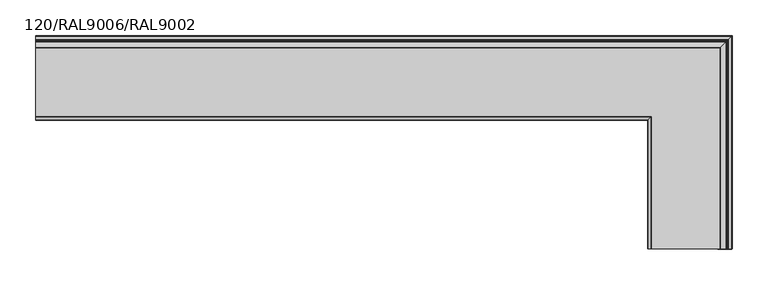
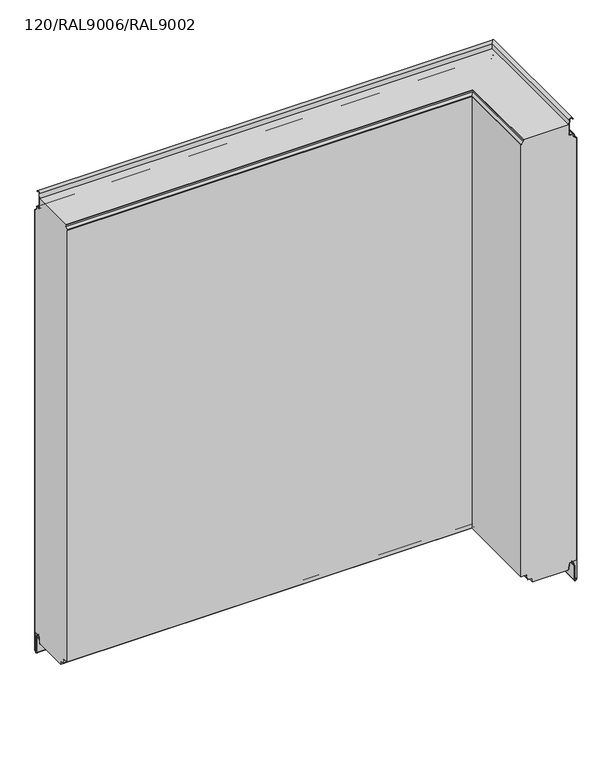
"""IFC4 building model written with IfcOpenShell, lengths in millimetres: plate geometry, TR_C_H_FHL_Corner_Tr_A : 120/RAL9006/RAL9002."""

from ifc_helpers import new_model, si_unit, frame, origin, place, context, project, spatial, polyline, circle_curve, ellipse_curve, source, transform, mapped, element, save
from ifc_brep_helpers import plane_surface, cylinder_surface, revolved_surface, advanced_brep


def plate_120_ral9006_ral9002_ec46e2fc(model_context):
    return source(origin(), model_context, "Body", "AdvancedBrep", [
        advanced_brep(
        [(472.5544237, -300.0, 1000.0), (376.8, -300.0, 1000.0), (376.8, -300.0, 998.1), (375.8334524, -300.0, 995.7665476), (371.4443651, -300.0, 991.3774603), (370.8, -300.0, 989.8218254), (370.8, -300.0, 19.9), (379.45, -300.0, 19.9), (383.635433, -300.0, 16.3880048), (384.9718183, -300.0, 8.808987), (386.0551068, -300.0, 7.9), (395.14, -300.0, 7.9), (395.14, -300.0, 0.0), (469.2, -300.0, 0.0), (470.2091721, -300.0, 0.1), (471.9027031, -300.0, 1.6518352), (472.7666165, -300.0, 11.5264116), (477.6479706, -300.0, 15.9993484), (489.2, -300.0, 15.9993484), (489.2, -300.0, 963.4370797), (488.6435029, -300.0, 964.7805826), (483.820101, -300.0, 969.6039845), (483.0, -300.0, 971.5838835), (483.0, -300.0, 974.4), (481.1, -300.0, 976.3), (475.2, -300.0, 976.3), (472.4, -300.0, 979.1), (472.4, -300.0, 998.2349288), (370.8, -119.2, 19.9), (370.8, -119.2, 989.8218254), (-490.0, -119.2, 989.8218254), (-490.0, -119.2, 19.9), (489.2, -0.8, 963.4370797), (489.2, -0.8, 15.9993484), (-490.0, -0.8, 15.9993484), (-490.0, -0.8, 963.4370797), (-490.0, -17.4455763, 1000.0), (-490.0, -17.6, 998.2349288), (-490.0, -17.6, 979.1), (-490.0, -14.8, 976.3), (-490.0, -8.9, 976.3), (-490.0, -7.0, 974.4), (-490.0, -7.0, 971.5838835), (-490.0, -6.179899, 969.6039845), (-490.0, -1.3564971, 964.7805826), (-490.0, -12.3520294, 15.9993484), (-490.0, -17.2333835, 11.5264116), (-490.0, -18.0972969, 1.6518352), (-490.0, -19.7908279, 0.1), (-490.0, -20.8, 0.0), (-490.0, -94.86, 0.0), (-490.0, -94.86, 7.9), (-490.0, -103.9448932, 7.9), (-490.0, -105.0281817, 8.808987), (-490.0, -106.364567, 16.3880048), (-490.0, -110.55, 19.9), (-490.0, -118.5556349, 991.3774603), (-490.0, -114.1665476, 995.7665476), (-490.0, -113.2, 998.1), (-490.0, -113.2, 1000.0), (472.5544237, -17.4455763, 1000.0), (376.8, -113.2, 1000.0), (395.14, -94.86, 0.0), (469.2, -20.8, 0.0), (376.8, -113.2, 998.1), (375.8334524, -114.1665476, 995.7665476), (371.4443651, -118.5556349, 991.3774603), (379.45, -110.55, 19.9), (383.635433, -106.364567, 16.3880048), (384.9718183, -105.0281817, 8.808987), (386.0551068, -103.9448932, 7.9), (395.14, -94.86, 7.9), (470.2091721, -19.7908279, 0.1), (471.9027031, -18.0972969, 1.6518352), (472.7666165, -17.2333835, 11.5264116), (477.6479706, -12.3520294, 15.9993484), (488.6435029, -1.3564971, 964.7805826), (483.820101, -6.179899, 969.6039845), (483.0, -7.0, 971.5838835), (483.0, -7.0, 974.4), (481.1, -8.9, 976.3), (475.2, -14.8, 976.3), (472.4, -17.6, 979.1), (472.4, -17.6, 998.2349288)],
        [
            (0, 1),
            (1, 2),
            (2, 3, circle_curve(frame((373.5, -300.0, 998.1), z_axis=(0.0, 1.0, 0.0), x_axis=(-1.0, 0.0, 0.0)), 3.3)),
            (3, 4),
            (4, 5, circle_curve(frame((373.0, -300.0, 989.8218254), z_axis=(0.0, -1.0, 0.0), x_axis=(-1.0, 0.0, 0.0)), 2.2)),
            (5, 6),
            (6, 7),
            (7, 8, circle_curve(frame((379.45, -300.0, 15.65), z_axis=(0.0, 1.0, 0.0), x_axis=(-1.0, 0.0, 0.0)), 4.25)),
            (8, 9),
            (9, 10, circle_curve(frame((386.0551068, -300.0, 9.0), z_axis=(0.0, -1.0, 0.0), x_axis=(-1.0, 0.0, 0.0)), 1.1)),
            (10, 11),
            (11, 12),
            (12, 13),
            (13, 14),
            (14, 15, circle_curve(frame((470.2091721, -300.0, 1.8), z_axis=(0.0, -1.0, 0.0), x_axis=(-1.0, 0.0, 0.0)), 1.7)),
            (15, 16),
            (16, 17, circle_curve(frame((477.6479706, -300.0, 11.0993484), z_axis=(0.0, 1.0, 0.0), x_axis=(-1.0, 0.0, 0.0)), 4.9)),
            (17, 18),
            (18, 19),
            (19, 20, circle_curve(frame((487.3, -300.0, 963.4370797), z_axis=(0.0, -1.0, 0.0), x_axis=(-1.0, 0.0, 0.0)), 1.9)),
            (20, 21),
            (21, 22, circle_curve(frame((485.8, -300.0, 971.5838835), z_axis=(0.0, 1.0, 0.0), x_axis=(-1.0, 0.0, 0.0)), 2.8)),
            (22, 23),
            (23, 24, circle_curve(frame((481.1, -300.0, 974.4), z_axis=(0.0, -1.0, 0.0), x_axis=(-1.0, 0.0, 0.0)), 1.9)),
            (24, 25),
            (25, 26, circle_curve(frame((475.2, -300.0, 979.1), z_axis=(0.0, 1.0, 0.0), x_axis=(-1.0, 0.0, 0.0)), 2.8)),
            (26, 27),
            (27, 0),
            (28, 29),
            (29, 30),
            (30, 31),
            (31, 28),
            (32, 33),
            (33, 34),
            (34, 35),
            (35, 32),
            (36, 37),
            (37, 38),
            (38, 39, circle_curve(frame((-490.0, -14.8, 979.1), z_axis=(1.0, 0.0, 0.0), x_axis=(0.0, -1.0, 0.0)), 2.8)),
            (39, 40),
            (40, 41, circle_curve(frame((-490.0, -8.9, 974.4), z_axis=(-1.0, 0.0, 0.0), x_axis=(0.0, -1.0, 0.0)), 1.9)),
            (41, 42),
            (42, 43, circle_curve(frame((-490.0, -4.2, 971.5838835), z_axis=(1.0, 0.0, 0.0), x_axis=(0.0, -1.0, 0.0)), 2.8)),
            (43, 44),
            (44, 35, circle_curve(frame((-490.0, -2.7, 963.4370797), z_axis=(-1.0, 0.0, 0.0), x_axis=(0.0, -1.0, 0.0)), 1.9)),
            (34, 45),
            (45, 46, circle_curve(frame((-490.0, -12.3520294, 11.0993484), z_axis=(1.0, 0.0, 0.0), x_axis=(0.0, -1.0, 0.0)), 4.9)),
            (46, 47),
            (47, 48, circle_curve(frame((-490.0, -19.7908279, 1.8), z_axis=(-1.0, 0.0, 0.0), x_axis=(0.0, -1.0, 0.0)), 1.7)),
            (48, 49),
            (49, 50),
            (50, 51),
            (51, 52),
            (52, 53, circle_curve(frame((-490.0, -103.9448932, 9.0), z_axis=(-1.0, 0.0, 0.0), x_axis=(0.0, -1.0, 0.0)), 1.1)),
            (53, 54),
            (54, 55, circle_curve(frame((-490.0, -110.55, 15.65), z_axis=(1.0, 0.0, 0.0), x_axis=(0.0, -1.0, 0.0)), 4.25)),
            (55, 31),
            (30, 56, circle_curve(frame((-490.0, -117.0, 989.8218254), z_axis=(-1.0, 0.0, 0.0), x_axis=(0.0, -1.0, 0.0)), 2.2)),
            (56, 57),
            (57, 58, circle_curve(frame((-490.0, -116.5, 998.1), z_axis=(1.0, 0.0, 0.0), x_axis=(0.0, -1.0, 0.0)), 3.3)),
            (58, 59),
            (59, 36),
            (0, 60),
            (60, 36),
            (59, 61),
            (61, 1),
            (5, 29),
            (28, 6),
            (12, 62),
            (62, 50),
            (49, 63),
            (63, 13),
            (18, 33),
            (32, 19),
            (61, 64),
            (64, 2),
            (64, 65, ellipse_curve(frame((373.5, -116.5, 998.1), z_axis=(-0.7071067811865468, 0.7071067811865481, 0.0), x_axis=(0.7071067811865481, 0.7071067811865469, 0.0)), 4.6669048, 3.3)),
            (65, 3),
            (65, 66),
            (66, 4),
            (66, 29, ellipse_curve(frame((373.0, -117.0, 989.8218254), z_axis=(0.7071067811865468, -0.7071067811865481, 0.0), x_axis=(-0.7071067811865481, -0.7071067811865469, 0.0)), 3.1112698, 2.2)),
            (55, 67),
            (67, 7),
            (67, 68, ellipse_curve(frame((379.45, -110.55, 15.65), z_axis=(-0.7071067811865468, 0.7071067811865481, 0.0), x_axis=(0.7071067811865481, 0.7071067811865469, 0.0)), 6.0104076, 4.25)),
            (68, 8),
            (68, 69),
            (69, 9),
            (69, 70, ellipse_curve(frame((386.0551068, -103.9448932, 9.0), z_axis=(0.7071067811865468, -0.7071067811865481, 0.0), x_axis=(-0.7071067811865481, -0.7071067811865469, 0.0)), 1.5556349, 1.1)),
            (70, 10),
            (70, 52),
            (51, 71),
            (71, 11),
            (71, 62),
            (63, 72),
            (72, 14),
            (72, 73, ellipse_curve(frame((470.2091721, -19.7908279, 1.8), z_axis=(0.7071067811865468, -0.7071067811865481, 0.0), x_axis=(-0.7071067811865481, -0.7071067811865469, 0.0)), 2.4041631, 1.7)),
            (73, 15),
            (73, 74),
            (74, 16),
            (74, 75, ellipse_curve(frame((477.6479706, -12.3520294, 11.0993484), z_axis=(-0.7071067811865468, 0.7071067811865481, 0.0), x_axis=(0.7071067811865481, 0.7071067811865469, 0.0)), 6.9296465, 4.9)),
            (75, 17),
            (75, 45),
            (32, 76, ellipse_curve(frame((487.3, -2.7, 963.4370797), z_axis=(0.7071067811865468, -0.7071067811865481, 0.0), x_axis=(-0.7071067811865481, -0.7071067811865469, 0.0)), 2.6870058, 1.9)),
            (76, 20),
            (76, 77),
            (77, 21),
            (77, 78, ellipse_curve(frame((485.8, -4.2, 971.5838835), z_axis=(-0.7071067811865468, 0.7071067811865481, 0.0), x_axis=(0.7071067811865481, 0.7071067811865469, 0.0)), 3.959798, 2.8)),
            (78, 22),
            (78, 79),
            (79, 23),
            (79, 80, ellipse_curve(frame((481.1, -8.9, 974.4), z_axis=(0.7071067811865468, -0.7071067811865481, 0.0), x_axis=(-0.7071067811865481, -0.7071067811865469, 0.0)), 2.6870058, 1.9)),
            (80, 24),
            (80, 40),
            (39, 81),
            (81, 25),
            (81, 82, ellipse_curve(frame((475.2, -14.8, 979.1), z_axis=(-0.7071067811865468, 0.7071067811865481, 0.0), x_axis=(0.7071067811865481, 0.7071067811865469, 0.0)), 3.959798, 2.8)),
            (82, 26),
            (82, 83),
            (83, 27),
            (83, 60),
            (58, 64),
            (57, 65),
            (56, 66),
            (54, 68),
            (53, 69),
            (48, 72),
            (47, 73),
            (46, 74),
            (44, 76),
            (43, 77),
            (42, 78),
            (41, 79),
            (38, 82),
            (37, 83),
        ],
        [
            plane_surface(frame((490.0, -300.0, 0.0), z_axis=(0.0, -1.0, 0.0), x_axis=(0.0, 0.0, 1.0))),
            plane_surface(frame((370.8, -119.2, 989.8218254), z_axis=(0.0, -1.0, 0.0), x_axis=(-1.0, 0.0, 0.0))),
            plane_surface(frame((489.2, -0.8, 15.9993484), z_axis=(0.0, 1.0, 0.0), x_axis=(-1.0, 0.0, 0.0))),
            plane_surface(frame((-490.0, 0.0, 0.0), z_axis=(-1.0, 0.0, 0.0), x_axis=(0.0, 0.0, 1.0))),
            plane_surface(frame((472.5544237, -300.0, 1000.0), z_axis=(0.0, 0.0, 1.0), x_axis=(0.0, 1.0, 0.0))),
            plane_surface(frame((370.8, -300.0, 989.8218254), z_axis=(-1.0, 0.0, 0.0), x_axis=(0.0, 1.0, 0.0))),
            plane_surface(frame((395.14, -300.0, 0.0), z_axis=(0.0, 0.0, -1.0), x_axis=(0.0, 1.0, 0.0))),
            plane_surface(frame((489.2, -300.0, 15.9993484), z_axis=(1.0, 0.0, 0.0), x_axis=(0.0, 1.0, 0.0))),
            plane_surface(frame((376.8, -300.0, 1000.0), z_axis=(-1.0, 0.0, 0.0), x_axis=(0.0, 1.0, 0.0))),
            revolved_surface(polyline([(370.2, -113.19999996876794, 998.1), (370.2, -300.0, 998.1)]), (373.5, -300.0, 998.1), (0.0, 1.0, 0.0)),
            plane_surface(frame((375.8334524, -300.0, 995.7665476), z_axis=(-0.7071067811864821, 0.0, 0.707106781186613), x_axis=(0.0, 1.0, 0.0))),
            cylinder_surface(frame((373.0, -300.0, 989.8218254), z_axis=(0.0, -1.0, 0.0), x_axis=(-1.0, 0.0, 0.0)), 2.2),
            plane_surface(frame((370.8, -300.0, 19.9), z_axis=(0.0, 0.0, -1.0), x_axis=(0.0, 1.0, 0.0))),
            revolved_surface(polyline([(375.2, -106.30000002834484, 15.65), (375.2, -300.0, 15.65)]), (379.45, -300.0, 15.65), (0.0, 1.0, 0.0)),
            plane_surface(frame((383.635433, -300.0, 16.3880048), z_axis=(-0.984807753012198, 0.0, -0.1736481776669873), x_axis=(0.0, 1.0, 0.0))),
            cylinder_surface(frame((386.0551068, -300.0, 9.0), z_axis=(0.0, -1.0, 0.0), x_axis=(-1.0, 0.0, 0.0)), 1.1),
            plane_surface(frame((386.0551068, -300.0, 7.9), z_axis=(0.0, 0.0, -1.0), x_axis=(0.0, 1.0, 0.0))),
            plane_surface(frame((395.14, -300.0, 7.9), z_axis=(-1.0, 0.0, 0.0), x_axis=(0.0, 1.0, 0.0))),
            plane_surface(frame((469.2, -300.0, 0.0), z_axis=(0.09860819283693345, 0.0, -0.9951263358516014), x_axis=(0.0, 1.0, 0.0))),
            cylinder_surface(frame((470.2091721, -300.0, 1.8), z_axis=(0.0, -1.0, 0.0), x_axis=(-1.0, 0.0, 0.0)), 1.7),
            plane_surface(frame((471.9027031, -300.0, 1.6518352), z_axis=(0.996194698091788, 0.0, -0.08715574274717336), x_axis=(0.0, 1.0, 0.0))),
            revolved_surface(polyline([(472.74797060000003, -7.45202936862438, 11.0993484), (472.74797060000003, -300.0, 11.0993484)]), (477.6479706, -300.0, 11.0993484), (0.0, 1.0, 0.0)),
            plane_surface(frame((477.6479706, -300.0, 15.9993484), z_axis=(0.0, 0.0, -1.0), x_axis=(0.0, 1.0, 0.0))),
            cylinder_surface(frame((487.3, -300.0, 963.4370797), z_axis=(0.0, -1.0, 0.0), x_axis=(-1.0, 0.0, 0.0)), 1.9),
            plane_surface(frame((488.6435029, -300.0, 964.7805826), z_axis=(0.7071067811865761, 0.0, 0.707106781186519), x_axis=(0.0, 1.0, 0.0))),
            revolved_surface(polyline([(483.0, -1.3999999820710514, 971.5838835), (483.0, -300.0, 971.5838835)]), (485.8, -300.0, 971.5838835), (0.0, 1.0, 0.0)),
            plane_surface(frame((483.0, -300.0, 971.5838835), z_axis=(1.0, 0.0, 0.0), x_axis=(0.0, 1.0, 0.0))),
            cylinder_surface(frame((481.1, -300.0, 974.4), z_axis=(0.0, -1.0, 0.0), x_axis=(-1.0, 0.0, 0.0)), 1.9),
            plane_surface(frame((481.1, -300.0, 976.3), z_axis=(0.0, 0.0, 1.0), x_axis=(0.0, 1.0, 0.0))),
            revolved_surface(polyline([(472.4, -11.999999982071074, 979.1), (472.4, -300.0, 979.1)]), (475.2, -300.0, 979.1), (0.0, 1.0, 0.0)),
            plane_surface(frame((472.4, -300.0, 979.1), z_axis=(1.0, 0.0, 0.0), x_axis=(0.0, 1.0, 0.0))),
            plane_surface(frame((472.4, -300.0, 998.2349288), z_axis=(0.9961946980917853, 0.0, -0.08715574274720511), x_axis=(0.0, 1.0, 0.0))),
            plane_surface(frame((376.8, -113.2, 1000.0), z_axis=(0.0, -1.0, 0.0), x_axis=(-1.0, 0.0, 0.0))),
            revolved_surface(polyline([(-490.0, -119.8, 998.1), (376.80000003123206, -119.8, 998.1)]), (490.0, -116.5, 998.1), (-1.0, 0.0, 0.0)),
            plane_surface(frame((375.8334524, -114.1665476, 995.7665476), z_axis=(0.0, -0.7071067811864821, 0.707106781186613), x_axis=(-1.0, 0.0, 0.0))),
            cylinder_surface(frame((490.0, -117.0, 989.8218254), z_axis=(1.0, 0.0, 0.0), x_axis=(0.0, -1.0, 0.0)), 2.2),
            revolved_surface(polyline([(-490.0, -114.8, 15.65), (383.6999999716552, -114.8, 15.65)]), (490.0, -110.55, 15.65), (-1.0, 0.0, 0.0)),
            plane_surface(frame((383.635433, -106.364567, 16.3880048), z_axis=(0.0, -0.984807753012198, -0.1736481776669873), x_axis=(-1.0, 0.0, 0.0))),
            cylinder_surface(frame((490.0, -103.9448932, 9.0), z_axis=(1.0, 0.0, 0.0), x_axis=(0.0, -1.0, 0.0)), 1.1),
            plane_surface(frame((395.14, -94.86, 7.9), z_axis=(0.0, -1.0, 0.0), x_axis=(-1.0, 0.0, 0.0))),
            plane_surface(frame((469.2, -20.8, 0.0), z_axis=(0.0, 0.09860819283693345, -0.9951263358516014), x_axis=(-1.0, 0.0, 0.0))),
            cylinder_surface(frame((490.0, -19.7908279, 1.8), z_axis=(1.0, 0.0, 0.0), x_axis=(0.0, -1.0, 0.0)), 1.7),
            plane_surface(frame((471.9027031, -18.0972969, 1.6518352), z_axis=(0.0, 0.996194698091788, -0.08715574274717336), x_axis=(-1.0, 0.0, 0.0))),
            revolved_surface(polyline([(-490.0, -17.252029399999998, 11.0993484), (482.5479706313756, -17.252029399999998, 11.0993484)]), (490.0, -12.3520294, 11.0993484), (-1.0, 0.0, 0.0)),
            cylinder_surface(frame((490.0, -2.7, 963.4370797), z_axis=(1.0, 0.0, 0.0), x_axis=(0.0, -1.0, 0.0)), 1.9),
            plane_surface(frame((488.6435029, -1.3564971, 964.7805826), z_axis=(0.0, 0.7071067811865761, 0.707106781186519), x_axis=(-1.0, 0.0, 0.0))),
            revolved_surface(polyline([(-490.0, -7.0, 971.5838835), (488.60000001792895, -7.0, 971.5838835)]), (490.0, -4.2, 971.5838835), (-1.0, 0.0, 0.0)),
            plane_surface(frame((483.0, -7.0, 971.5838835), z_axis=(0.0, 1.0, 0.0), x_axis=(-1.0, 0.0, 0.0))),
            cylinder_surface(frame((490.0, -8.9, 974.4), z_axis=(1.0, 0.0, 0.0), x_axis=(0.0, -1.0, 0.0)), 1.9),
            revolved_surface(polyline([(-490.0, -17.6, 979.1), (478.0000000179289, -17.6, 979.1)]), (490.0, -14.8, 979.1), (-1.0, 0.0, 0.0)),
            plane_surface(frame((472.4, -17.6, 979.1), z_axis=(0.0, 1.0, 0.0), x_axis=(-1.0, 0.0, 0.0))),
            plane_surface(frame((472.4, -17.6, 998.2349288), z_axis=(0.0, 0.9961946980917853, -0.08715574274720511), x_axis=(-1.0, 0.0, 0.0))),
        ],
        [
            (0, [[1, 2, 3, 4, 5, 6, 7, 8, 9, 10, 11, 12, 13, 14, 15, 16, 17, 18, 19, 20, 21, 22, 23, 24, 25, 26, 27, 28]]),
            (1, [[29, 30, 31, 32]]),
            (2, [[33, 34, 35, 36]]),
            (3, [[37, 38, 39, 40, 41, 42, 43, 44, 45, -35, 46, 47, 48, 49, 50, 51, 52, 53, 54, 55, 56, 57, -31, 58, 59, 60, 61, 62]]),
            (4, [[-1, 63, 64, -62, 65, 66]]),
            (5, [[-6, 67, -29, 68]]),
            (6, [[-13, 69, 70, -51, 71, 72]]),
            (7, [[-19, 73, -33, 74]]),
            (8, [[-2, -66, 75, 76]]),
            (9, [[-3, -76, 77, 78]]),
            (10, [[-4, -78, 79, 80]]),
            (11, [[-5, -80, 81, -67]]),
            (12, [[-7, -68, -32, -57, 82, 83]]),
            (13, [[-8, -83, 84, 85]]),
            (14, [[-9, -85, 86, 87]]),
            (15, [[-10, -87, 88, 89]]),
            (16, [[-11, -89, 90, -53, 91, 92]]),
            (17, [[-12, -92, 93, -69]]),
            (18, [[-14, -72, 94, 95]]),
            (19, [[-15, -95, 96, 97]]),
            (20, [[-16, -97, 98, 99]]),
            (21, [[-17, -99, 100, 101]]),
            (22, [[-18, -101, 102, -46, -34, -73]]),
            (23, [[-20, -74, 103, 104]]),
            (24, [[-21, -104, 105, 106]]),
            (25, [[-22, -106, 107, 108]]),
            (26, [[-23, -108, 109, 110]]),
            (27, [[-24, -110, 111, 112]]),
            (28, [[-25, -112, 113, -40, 114, 115]]),
            (29, [[-26, -115, 116, 117]]),
            (30, [[-27, -117, 118, 119]]),
            (31, [[-28, -119, 120, -63]]),
            (32, [[-75, -65, -61, 121]]),
            (33, [[-77, -121, -60, 122]]),
            (34, [[-79, -122, -59, 123]]),
            (35, [[-81, -123, -58, -30]]),
            (36, [[-84, -82, -56, 124]]),
            (37, [[-86, -124, -55, 125]]),
            (38, [[-88, -125, -54, -90]]),
            (39, [[-93, -91, -52, -70]]),
            (40, [[-94, -71, -50, 126]]),
            (41, [[-96, -126, -49, 127]]),
            (42, [[-98, -127, -48, 128]]),
            (43, [[-100, -128, -47, -102]]),
            (44, [[-103, -36, -45, 129]]),
            (45, [[-105, -129, -44, 130]]),
            (46, [[-107, -130, -43, 131]]),
            (47, [[-109, -131, -42, 132]]),
            (48, [[-111, -132, -41, -113]]),
            (49, [[-116, -114, -39, 133]]),
            (50, [[-118, -133, -38, 134]]),
            (51, [[-120, -134, -37, -64]]),
        ],
    ),
        advanced_brep(
        [(490.0, -300.0, 963.4370797), (489.2091883, -300.0, 965.346268), (484.3857864, -300.0, 970.1696699), (483.8, -300.0, 971.5838835), (483.8, -300.0, 974.4), (481.1, -300.0, 977.1), (475.2, -300.0, 977.1), (473.2, -300.0, 979.1), (473.2, -300.0, 998.2), (474.2917621, -300.0, 1010.6788984), (480.5052446, -300.0, 1011.4418181), (480.8148588, -300.0, 1010.5426332), (481.5712737, -300.0, 1010.8030877), (481.2616595, -300.0, 1011.7022726), (473.4948064, -300.0, 1010.748623), (472.4, -300.0, 998.2349288), (472.4, -300.0, 979.1), (475.2, -300.0, 976.3), (481.1, -300.0, 976.3), (483.0, -300.0, 974.4), (483.0, -300.0, 971.5838835), (483.820101, -300.0, 969.6039845), (488.6435029, -300.0, 964.7805826), (489.2, -300.0, 963.4370797), (489.2, -300.0, -25.1006169), (488.5957969, -300.0, -26.4901889), (486.6501982, -300.0, -28.3044891), (484.8, -300.0, -27.5), (484.8, -300.0, 4.8267282), (484.6202113, -300.0, 5.9011031), (482.2810116, -300.0, 12.6946324), (472.7666165, -300.0, 11.5264116), (471.9027031, -300.0, 1.6518352), (470.2091721, -300.0, 0.1), (469.2, -300.0, 0.1), (469.2, -300.0, -0.7), (470.2091721, -300.0, -0.7), (472.6996588, -300.0, 1.5821106), (473.5635723, -300.0, 11.456687), (481.5245967, -300.0, 12.4341779), (483.8637964, -300.0, 5.6406486), (484.0, -300.0, 4.8267282), (484.0, -300.0, -27.5), (487.1957969, -300.0, -28.889572), (489.1413956, -300.0, -27.0752719), (490.0, -300.0, -25.1006169), (489.2, -0.8, -25.1006169), (489.2, -0.8, 963.4370797), (-490.0, -0.8, 963.4370797), (-490.0, -0.8, -25.1006169), (490.0, 0.0, 963.4370797), (490.0, 0.0, -25.1006169), (-490.0, 0.0, -25.1006169), (-490.0, 0.0, 963.4370797), (-490.0, -0.8586044, -27.0752719), (-490.0, -2.8042031, -28.889572), (-490.0, -6.0, -27.5), (-490.0, -6.0, 4.8267282), (-490.0, -6.1362036, 5.6406486), (-490.0, -8.4754033, 12.4341779), (-490.0, -16.4364277, 11.456687), (-490.0, -17.3003412, 1.5821106), (-490.0, -19.7908279, -0.7), (-490.0, -20.8, -0.7), (-490.0, -20.8, 0.1), (-490.0, -19.7908279, 0.1), (-490.0, -18.0972969, 1.6518352), (-490.0, -17.2333835, 11.5264116), (-490.0, -7.7189884, 12.6946324), (-490.0, -5.3797887, 5.9011031), (-490.0, -5.2, 4.8267282), (-490.0, -5.2, -27.5), (-490.0, -3.3498018, -28.3044891), (-490.0, -1.4042031, -26.4901889), (-490.0, -1.3564971, 964.7805826), (-490.0, -6.179899, 969.6039845), (-490.0, -7.0, 971.5838835), (-490.0, -7.0, 974.4), (-490.0, -8.9, 976.3), (-490.0, -14.8, 976.3), (-490.0, -17.6, 979.1), (-490.0, -17.6, 998.2349288), (-490.0, -16.5051936, 1010.748623), (-490.0, -8.7383405, 1011.7022726), (-490.0, -8.4287263, 1010.8030877), (-490.0, -9.1851412, 1010.5426332), (-490.0, -9.4947554, 1011.4418181), (-490.0, -15.7082379, 1010.6788984), (-490.0, -16.8, 998.2), (-490.0, -16.8, 979.1), (-490.0, -14.8, 977.1), (-490.0, -8.9, 977.1), (-490.0, -6.2, 974.4), (-490.0, -6.2, 971.5838835), (-490.0, -5.6142136, 970.1696699), (-490.0, -0.7908117, 965.346268), (489.2091883, -0.7908117, 965.346268), (484.3857864, -5.6142136, 970.1696699), (483.8, -6.2, 971.5838835), (483.8, -6.2, 974.4), (481.1, -8.9, 977.1), (475.2, -14.8, 977.1), (473.2, -16.8, 979.1), (473.2, -16.8, 998.2), (474.2917621, -15.7082379, 1010.6788984), (480.5052446, -9.4947554, 1011.4418181), (480.8148588, -9.1851412, 1010.5426332), (481.5712737, -8.4287263, 1010.8030877), (481.2616595, -8.7383405, 1011.7022726), (473.4948064, -16.5051936, 1010.748623), (472.4, -17.6, 998.2349288), (472.4, -17.6, 979.1), (475.2, -14.8, 976.3), (481.1, -8.9, 976.3), (483.0, -7.0, 974.4), (483.0, -7.0, 971.5838835), (483.820101, -6.179899, 969.6039845), (488.6435029, -1.3564971, 964.7805826), (488.5957969, -1.4042031, -26.4901889), (486.6501982, -3.3498018, -28.3044891), (484.8, -5.2, -27.5), (484.8, -5.2, 4.8267282), (484.6202113, -5.3797887, 5.9011031), (482.2810116, -7.7189884, 12.6946324), (472.7666165, -17.2333835, 11.5264116), (471.9027031, -18.0972969, 1.6518352), (470.2091721, -19.7908279, 0.1), (469.2, -20.8, 0.1), (469.2, -20.8, -0.7), (470.2091721, -19.7908279, -0.7), (472.6996588, -17.3003412, 1.5821106), (473.5635723, -16.4364277, 11.456687), (481.5245967, -8.4754033, 12.4341779), (483.8637964, -6.1362036, 5.6406486), (484.0, -6.0, 4.8267282), (484.0, -6.0, -27.5), (487.1957969, -2.8042031, -28.889572), (489.1413956, -0.8586044, -27.0752719)],
        [
            (0, 1, circle_curve(frame((487.3, -300.0, 963.4370797), z_axis=(0.0, -1.0, 0.0), x_axis=(-1.0, 0.0, 0.0)), 2.7)),
            (1, 2),
            (2, 3, circle_curve(frame((485.8, -300.0, 971.5838835), z_axis=(0.0, 1.0, 0.0), x_axis=(-1.0, 0.0, 0.0)), 2.0)),
            (3, 4),
            (4, 5, circle_curve(frame((481.1, -300.0, 974.4), z_axis=(0.0, -1.0, 0.0), x_axis=(-1.0, 0.0, 0.0)), 2.7)),
            (5, 6),
            (6, 7, circle_curve(frame((475.2, -300.0, 979.1), z_axis=(0.0, 1.0, 0.0), x_axis=(-1.0, 0.0, 0.0)), 2.0)),
            (7, 8),
            (8, 9),
            (9, 10, circle_curve(frame((477.4795852, -300.0, 1010.4), z_axis=(0.0, 1.0, 0.0), x_axis=(-1.0, 0.0, 0.0)), 3.2)),
            (10, 11),
            (11, 12),
            (12, 13),
            (13, 14, circle_curve(frame((477.4795852, -300.0, 1010.4), z_axis=(0.0, -1.0, 0.0), x_axis=(-1.0, 0.0, 0.0)), 4.0)),
            (14, 15),
            (15, 16),
            (16, 17, circle_curve(frame((475.2, -300.0, 979.1), z_axis=(0.0, -1.0, 0.0), x_axis=(-1.0, 0.0, 0.0)), 2.8)),
            (17, 18),
            (18, 19, circle_curve(frame((481.1, -300.0, 974.4), z_axis=(0.0, 1.0, 0.0), x_axis=(-1.0, 0.0, 0.0)), 1.9)),
            (19, 20),
            (20, 21, circle_curve(frame((485.8, -300.0, 971.5838835), z_axis=(0.0, -1.0, 0.0), x_axis=(-1.0, 0.0, 0.0)), 2.8)),
            (21, 22),
            (22, 23, circle_curve(frame((487.3, -300.0, 963.4370797), z_axis=(0.0, 1.0, 0.0), x_axis=(-1.0, 0.0, 0.0)), 1.9)),
            (23, 24),
            (24, 25, circle_curve(frame((487.3, -300.0, -25.1006169), z_axis=(0.0, 1.0, 0.0), x_axis=(-1.0, 0.0, 0.0)), 1.9)),
            (25, 26),
            (26, 27, circle_curve(frame((485.9, -300.0, -27.5), z_axis=(0.0, 1.0, 0.0), x_axis=(-1.0, 0.0, 0.0)), 1.1)),
            (27, 28),
            (28, 29, circle_curve(frame((481.5, -300.0, 4.8267282), z_axis=(0.0, -1.0, 0.0), x_axis=(-1.0, 0.0, 0.0)), 3.3)),
            (29, 30),
            (30, 31, circle_curve(frame((477.6479706, -300.0, 11.0993484), z_axis=(0.0, -1.0, 0.0), x_axis=(-1.0, 0.0, 0.0)), 4.9)),
            (31, 32),
            (32, 33, circle_curve(frame((470.2091721, -300.0, 1.8), z_axis=(0.0, 1.0, 0.0), x_axis=(-1.0, 0.0, 0.0)), 1.7)),
            (33, 34),
            (34, 35),
            (35, 36),
            (36, 37, circle_curve(frame((470.2091721, -300.0, 1.8), z_axis=(0.0, -1.0, 0.0), x_axis=(-1.0, 0.0, 0.0)), 2.5)),
            (37, 38),
            (38, 39, circle_curve(frame((477.6479706, -300.0, 11.0993484), z_axis=(0.0, 1.0, 0.0), x_axis=(-1.0, 0.0, 0.0)), 4.1)),
            (39, 40),
            (40, 41, circle_curve(frame((481.5, -300.0, 4.8267282), z_axis=(0.0, 1.0, 0.0), x_axis=(-1.0, 0.0, 0.0)), 2.5)),
            (41, 42),
            (42, 43, circle_curve(frame((485.9, -300.0, -27.5), z_axis=(0.0, -1.0, 0.0), x_axis=(-1.0, 0.0, 0.0)), 1.9)),
            (43, 44),
            (44, 45, circle_curve(frame((487.3, -300.0, -25.1006169), z_axis=(0.0, -1.0, 0.0), x_axis=(-1.0, 0.0, 0.0)), 2.7)),
            (45, 0),
            (46, 47),
            (47, 48),
            (48, 49),
            (49, 46),
            (50, 51),
            (51, 52),
            (52, 53),
            (53, 50),
            (52, 54, circle_curve(frame((-490.0, -2.7, -25.1006169), z_axis=(-1.0, 0.0, 0.0), x_axis=(0.0, -1.0, 0.0)), 2.7)),
            (54, 55),
            (55, 56, circle_curve(frame((-490.0, -4.1, -27.5), z_axis=(-1.0, 0.0, 0.0), x_axis=(0.0, -1.0, 0.0)), 1.9)),
            (56, 57),
            (57, 58, circle_curve(frame((-490.0, -8.5, 4.8267282), z_axis=(1.0, 0.0, 0.0), x_axis=(0.0, -1.0, 0.0)), 2.5)),
            (58, 59),
            (59, 60, circle_curve(frame((-490.0, -12.3520294, 11.0993484), z_axis=(1.0, 0.0, 0.0), x_axis=(0.0, -1.0, 0.0)), 4.1)),
            (60, 61),
            (61, 62, circle_curve(frame((-490.0, -19.7908279, 1.8), z_axis=(-1.0, 0.0, 0.0), x_axis=(0.0, -1.0, 0.0)), 2.5)),
            (62, 63),
            (63, 64),
            (64, 65),
            (65, 66, circle_curve(frame((-490.0, -19.7908279, 1.8), z_axis=(1.0, 0.0, 0.0), x_axis=(0.0, -1.0, 0.0)), 1.7)),
            (66, 67),
            (67, 68, circle_curve(frame((-490.0, -12.3520294, 11.0993484), z_axis=(-1.0, 0.0, 0.0), x_axis=(0.0, -1.0, 0.0)), 4.9)),
            (68, 69),
            (69, 70, circle_curve(frame((-490.0, -8.5, 4.8267282), z_axis=(-1.0, 0.0, 0.0), x_axis=(0.0, -1.0, 0.0)), 3.3)),
            (70, 71),
            (71, 72, circle_curve(frame((-490.0, -4.1, -27.5), z_axis=(1.0, 0.0, 0.0), x_axis=(0.0, -1.0, 0.0)), 1.1)),
            (72, 73),
            (73, 49, circle_curve(frame((-490.0, -2.7, -25.1006169), z_axis=(1.0, 0.0, 0.0), x_axis=(0.0, -1.0, 0.0)), 1.9)),
            (48, 74, circle_curve(frame((-490.0, -2.7, 963.4370797), z_axis=(1.0, 0.0, 0.0), x_axis=(0.0, -1.0, 0.0)), 1.9)),
            (74, 75),
            (75, 76, circle_curve(frame((-490.0, -4.2, 971.5838835), z_axis=(-1.0, 0.0, 0.0), x_axis=(0.0, -1.0, 0.0)), 2.8)),
            (76, 77),
            (77, 78, circle_curve(frame((-490.0, -8.9, 974.4), z_axis=(1.0, 0.0, 0.0), x_axis=(0.0, -1.0, 0.0)), 1.9)),
            (78, 79),
            (79, 80, circle_curve(frame((-490.0, -14.8, 979.1), z_axis=(-1.0, 0.0, 0.0), x_axis=(0.0, -1.0, 0.0)), 2.8)),
            (80, 81),
            (81, 82),
            (82, 83, circle_curve(frame((-490.0, -12.5204148, 1010.4), z_axis=(-1.0, 0.0, 0.0), x_axis=(0.0, -1.0, 0.0)), 4.0)),
            (83, 84),
            (84, 85),
            (85, 86),
            (86, 87, circle_curve(frame((-490.0, -12.5204148, 1010.4), z_axis=(1.0, 0.0, 0.0), x_axis=(0.0, -1.0, 0.0)), 3.2)),
            (87, 88),
            (88, 89),
            (89, 90, circle_curve(frame((-490.0, -14.8, 979.1), z_axis=(1.0, 0.0, 0.0), x_axis=(0.0, -1.0, 0.0)), 2.0)),
            (90, 91),
            (91, 92, circle_curve(frame((-490.0, -8.9, 974.4), z_axis=(-1.0, 0.0, 0.0), x_axis=(0.0, -1.0, 0.0)), 2.7)),
            (92, 93),
            (93, 94, circle_curve(frame((-490.0, -4.2, 971.5838835), z_axis=(1.0, 0.0, 0.0), x_axis=(0.0, -1.0, 0.0)), 2.0)),
            (94, 95),
            (95, 53, circle_curve(frame((-490.0, -2.7, 963.4370797), z_axis=(-1.0, 0.0, 0.0), x_axis=(0.0, -1.0, 0.0)), 2.7)),
            (23, 47),
            (46, 24),
            (45, 51),
            (50, 0),
            (50, 96, ellipse_curve(frame((487.3, -2.7, 963.4370797), z_axis=(0.7071067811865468, -0.7071067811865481, 0.0), x_axis=(-0.7071067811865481, -0.7071067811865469, 0.0)), 3.8183766, 2.7)),
            (96, 1),
            (96, 97),
            (97, 2),
            (97, 98, ellipse_curve(frame((485.8, -4.2, 971.5838835), z_axis=(-0.7071067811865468, 0.7071067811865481, 0.0), x_axis=(0.7071067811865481, 0.7071067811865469, 0.0)), 2.8284271, 2.0)),
            (98, 3),
            (98, 99),
            (99, 4),
            (99, 100, ellipse_curve(frame((481.1, -8.9, 974.4), z_axis=(0.7071067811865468, -0.7071067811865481, 0.0), x_axis=(-0.7071067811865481, -0.7071067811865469, 0.0)), 3.8183766, 2.7)),
            (100, 5),
            (100, 91),
            (90, 101),
            (101, 6),
            (101, 102, ellipse_curve(frame((475.2, -14.8, 979.1), z_axis=(-0.7071067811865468, 0.7071067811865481, 0.0), x_axis=(0.7071067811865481, 0.7071067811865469, 0.0)), 2.8284271, 2.0)),
            (102, 7),
            (102, 103),
            (103, 8),
            (103, 104),
            (104, 9),
            (104, 105, ellipse_curve(frame((477.4795852, -12.5204148, 1010.4), z_axis=(-0.7071067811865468, 0.7071067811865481, 0.0), x_axis=(0.7071067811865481, 0.7071067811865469, 0.0)), 4.5254834, 3.2)),
            (105, 10),
            (105, 106),
            (106, 11),
            (106, 107),
            (107, 12),
            (107, 108),
            (108, 13),
            (108, 109, ellipse_curve(frame((477.4795852, -12.5204148, 1010.4), z_axis=(0.7071067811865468, -0.7071067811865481, 0.0), x_axis=(-0.7071067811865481, -0.7071067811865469, 0.0)), 5.6568542, 4.0)),
            (109, 14),
            (109, 110),
            (110, 15),
            (110, 111),
            (111, 16),
            (111, 112, ellipse_curve(frame((475.2, -14.8, 979.1), z_axis=(0.7071067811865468, -0.7071067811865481, 0.0), x_axis=(-0.7071067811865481, -0.7071067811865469, 0.0)), 3.959798, 2.8)),
            (112, 17),
            (112, 79),
            (78, 113),
            (113, 18),
            (113, 114, ellipse_curve(frame((481.1, -8.9, 974.4), z_axis=(-0.7071067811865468, 0.7071067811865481, 0.0), x_axis=(0.7071067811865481, 0.7071067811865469, 0.0)), 2.6870058, 1.9)),
            (114, 19),
            (114, 115),
            (115, 20),
            (115, 116, ellipse_curve(frame((485.8, -4.2, 971.5838835), z_axis=(0.7071067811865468, -0.7071067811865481, 0.0), x_axis=(-0.7071067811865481, -0.7071067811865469, 0.0)), 3.959798, 2.8)),
            (116, 21),
            (116, 117),
            (117, 22),
            (117, 47, ellipse_curve(frame((487.3, -2.7, 963.4370797), z_axis=(-0.7071067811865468, 0.7071067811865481, 0.0), x_axis=(0.7071067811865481, 0.7071067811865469, 0.0)), 2.6870058, 1.9)),
            (46, 118, ellipse_curve(frame((487.3, -2.7, -25.1006169), z_axis=(-0.7071067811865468, 0.7071067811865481, 0.0), x_axis=(0.7071067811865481, 0.7071067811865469, 0.0)), 2.6870058, 1.9)),
            (118, 25),
            (118, 119),
            (119, 26),
            (119, 120, ellipse_curve(frame((485.9, -4.1, -27.5), z_axis=(-0.7071067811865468, 0.7071067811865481, 0.0), x_axis=(0.7071067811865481, 0.7071067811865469, 0.0)), 1.5556349, 1.1)),
            (120, 27),
            (120, 121),
            (121, 28),
            (121, 122, ellipse_curve(frame((481.5, -8.5, 4.8267282), z_axis=(0.7071067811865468, -0.7071067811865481, 0.0), x_axis=(-0.7071067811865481, -0.7071067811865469, 0.0)), 4.6669048, 3.3)),
            (122, 29),
            (122, 123),
            (123, 30),
            (123, 124, ellipse_curve(frame((477.6479706, -12.3520294, 11.0993484), z_axis=(0.7071067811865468, -0.7071067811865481, 0.0), x_axis=(-0.7071067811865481, -0.7071067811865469, 0.0)), 6.9296465, 4.9)),
            (124, 31),
            (124, 125),
            (125, 32),
            (125, 126, ellipse_curve(frame((470.2091721, -19.7908279, 1.8), z_axis=(-0.7071067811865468, 0.7071067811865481, 0.0), x_axis=(0.7071067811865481, 0.7071067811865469, 0.0)), 2.4041631, 1.7)),
            (126, 33),
            (126, 65),
            (64, 127),
            (127, 34),
            (127, 128),
            (128, 35),
            (128, 63),
            (62, 129),
            (129, 36),
            (129, 130, ellipse_curve(frame((470.2091721, -19.7908279, 1.8), z_axis=(0.7071067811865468, -0.7071067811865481, 0.0), x_axis=(-0.7071067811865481, -0.7071067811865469, 0.0)), 3.5355339, 2.5)),
            (130, 37),
            (130, 131),
            (131, 38),
            (131, 132, ellipse_curve(frame((477.6479706, -12.3520294, 11.0993484), z_axis=(-0.7071067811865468, 0.7071067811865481, 0.0), x_axis=(0.7071067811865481, 0.7071067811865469, 0.0)), 5.7982756, 4.1)),
            (132, 39),
            (132, 133),
            (133, 40),
            (133, 134, ellipse_curve(frame((481.5, -8.5, 4.8267282), z_axis=(-0.7071067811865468, 0.7071067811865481, 0.0), x_axis=(0.7071067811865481, 0.7071067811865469, 0.0)), 3.5355339, 2.5)),
            (134, 41),
            (134, 135),
            (135, 42),
            (135, 136, ellipse_curve(frame((485.9, -4.1, -27.5), z_axis=(0.7071067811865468, -0.7071067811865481, 0.0), x_axis=(-0.7071067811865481, -0.7071067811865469, 0.0)), 2.6870058, 1.9)),
            (136, 43),
            (136, 137),
            (137, 44),
            (137, 51, ellipse_curve(frame((487.3, -2.7, -25.1006169), z_axis=(0.7071067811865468, -0.7071067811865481, 0.0), x_axis=(-0.7071067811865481, -0.7071067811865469, 0.0)), 3.8183766, 2.7)),
            (95, 96),
            (94, 97),
            (93, 98),
            (92, 99),
            (89, 102),
            (88, 103),
            (87, 104),
            (86, 105),
            (85, 106),
            (84, 107),
            (83, 108),
            (82, 109),
            (81, 110),
            (80, 111),
            (77, 114),
            (76, 115),
            (75, 116),
            (74, 117),
            (73, 118),
            (72, 119),
            (71, 120),
            (70, 121),
            (69, 122),
            (68, 123),
            (67, 124),
            (66, 125),
            (61, 130),
            (60, 131),
            (59, 132),
            (58, 133),
            (57, 134),
            (56, 135),
            (55, 136),
            (54, 137),
        ],
        [
            plane_surface(frame((490.0, -300.0, 0.0), z_axis=(0.0, -1.0, 0.0), x_axis=(0.0, 0.0, 1.0))),
            plane_surface(frame((489.2, -0.8, 963.4370797), z_axis=(0.0, -1.0, 0.0), x_axis=(-1.0, 0.0, 0.0))),
            plane_surface(frame((490.0, 0.0, -25.1006169), z_axis=(0.0, 1.0, 0.0), x_axis=(-1.0, 0.0, 0.0))),
            plane_surface(frame((-490.0, 0.0, 0.0), z_axis=(-1.0, 0.0, 0.0), x_axis=(0.0, 0.0, 1.0))),
            plane_surface(frame((489.2, -300.0, 963.4370797), z_axis=(-1.0, 0.0, 0.0), x_axis=(0.0, 1.0, 0.0))),
            plane_surface(frame((490.0, -300.0, -25.1006169), z_axis=(1.0, 0.0, 0.0), x_axis=(0.0, 1.0, 0.0))),
            cylinder_surface(frame((487.3, -300.0, 963.4370797), z_axis=(0.0, -1.0, 0.0), x_axis=(-1.0, 0.0, 0.0)), 2.7),
            plane_surface(frame((489.2091883, -300.0, 965.346268), z_axis=(0.7071067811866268, 0.0, 0.7071067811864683), x_axis=(0.0, 1.0, 0.0))),
            revolved_surface(polyline([(483.8, -2.200000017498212, 971.5838835), (483.8, -300.0, 971.5838835)]), (485.8, -300.0, 971.5838835), (0.0, 1.0, 0.0)),
            plane_surface(frame((483.8, -300.0, 971.5838835), z_axis=(1.0, 0.0, 0.0), x_axis=(0.0, 1.0, 0.0))),
            cylinder_surface(frame((481.1, -300.0, 974.4), z_axis=(0.0, -1.0, 0.0), x_axis=(-1.0, 0.0, 0.0)), 2.7),
            plane_surface(frame((481.1, -300.0, 977.1), z_axis=(0.0, 0.0, 1.0), x_axis=(0.0, 1.0, 0.0))),
            revolved_surface(polyline([(473.2, -12.800000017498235, 979.1), (473.2, -300.0, 979.1)]), (475.2, -300.0, 979.1), (0.0, 1.0, 0.0)),
            plane_surface(frame((473.2, -300.0, 979.1), z_axis=(1.0, 0.0, 0.0), x_axis=(0.0, 1.0, 0.0))),
            plane_surface(frame((473.2, -300.0, 998.2), z_axis=(0.9961946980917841, 0.0, -0.08715574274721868), x_axis=(0.0, 1.0, 0.0))),
            revolved_surface(polyline([(474.2795852, -9.320414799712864, 1010.4), (474.2795852, -300.0, 1010.4)]), (477.4795852, -300.0, 1010.4), (0.0, 1.0, 0.0)),
            plane_surface(frame((480.5052446, -300.0, 1011.4418181), z_axis=(-0.945518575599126, 0.0, -0.325568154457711), x_axis=(0.0, 1.0, 0.0))),
            plane_surface(frame((480.8148588, -300.0, 1010.5426332), z_axis=(0.32556815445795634, 0.0, -0.9455185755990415), x_axis=(0.0, 1.0, 0.0))),
            plane_surface(frame((481.5712737, -300.0, 1010.8030877), z_axis=(0.9455185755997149, 0.0, 0.3255681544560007), x_axis=(0.0, 1.0, 0.0))),
            cylinder_surface(frame((477.4795852, -300.0, 1010.4), z_axis=(0.0, -1.0, 0.0), x_axis=(-1.0, 0.0, 0.0)), 4.0),
            plane_surface(frame((473.4948064, -300.0, 1010.748623), z_axis=(-0.9961946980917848, 0.0, 0.08715574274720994), x_axis=(0.0, 1.0, 0.0))),
            plane_surface(frame((472.4, -300.0, 998.2349288), z_axis=(-1.0, 0.0, 0.0), x_axis=(0.0, 1.0, 0.0))),
            cylinder_surface(frame((475.2, -300.0, 979.1), z_axis=(0.0, -1.0, 0.0), x_axis=(-1.0, 0.0, 0.0)), 2.8),
            plane_surface(frame((475.2, -300.0, 976.3), z_axis=(0.0, 0.0, -1.0), x_axis=(0.0, 1.0, 0.0))),
            revolved_surface(polyline([(479.20000000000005, -6.9999999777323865, 974.4), (479.20000000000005, -300.0, 974.4)]), (481.1, -300.0, 974.4), (0.0, 1.0, 0.0)),
            plane_surface(frame((483.0, -300.0, 974.4), z_axis=(-1.0, 0.0, 0.0), x_axis=(0.0, 1.0, 0.0))),
            cylinder_surface(frame((485.8, -300.0, 971.5838835), z_axis=(0.0, -1.0, 0.0), x_axis=(-1.0, 0.0, 0.0)), 2.8),
            plane_surface(frame((483.820101, -300.0, 969.6039845), z_axis=(-0.7071067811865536, 0.0, -0.7071067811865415), x_axis=(0.0, 1.0, 0.0))),
            revolved_surface(polyline([(485.40000000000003, -0.7999999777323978, 963.4370797), (485.40000000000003, -300.0, 963.4370797)]), (487.3, -300.0, 963.4370797), (0.0, 1.0, 0.0)),
            revolved_surface(polyline([(485.40000000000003, -0.7999999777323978, -25.1006169), (485.40000000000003, -300.0, -25.1006169)]), (487.3, -300.0, -25.1006169), (0.0, 1.0, 0.0)),
            plane_surface(frame((488.5957969, -300.0, -26.4901889), z_axis=(-0.6819983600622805, 0.0, 0.7313537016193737), x_axis=(0.0, 1.0, 0.0))),
            revolved_surface(polyline([(484.79999999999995, -3.0000000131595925, -27.5), (484.79999999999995, -300.0, -27.5)]), (485.9, -300.0, -27.5), (0.0, 1.0, 0.0)),
            plane_surface(frame((484.8, -300.0, -27.5), z_axis=(1.0, 0.0, 0.0), x_axis=(0.0, 1.0, 0.0))),
            cylinder_surface(frame((481.5, -300.0, 4.8267282), z_axis=(0.0, -1.0, 0.0), x_axis=(-1.0, 0.0, 0.0)), 3.3),
            plane_surface(frame((484.6202113, -300.0, 5.9011031), z_axis=(0.9455185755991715, 0.0, 0.32556815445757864), x_axis=(0.0, 1.0, 0.0))),
            cylinder_surface(frame((477.6479706, -300.0, 11.0993484), z_axis=(0.0, -1.0, 0.0), x_axis=(-1.0, 0.0, 0.0)), 4.9),
            plane_surface(frame((472.7666165, -300.0, 11.5264116), z_axis=(-0.9961946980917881, 0.0, 0.08715574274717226), x_axis=(0.0, 1.0, 0.0))),
            revolved_surface(polyline([(468.5091721, -18.09082786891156, 1.8), (468.5091721, -300.0, 1.8)]), (470.2091721, -300.0, 1.8), (0.0, 1.0, 0.0)),
            plane_surface(frame((470.2091721, -300.0, 0.1), z_axis=(0.0, 0.0, 1.0), x_axis=(0.0, 1.0, 0.0))),
            plane_surface(frame((469.2, -300.0, 0.1), z_axis=(-1.0, 0.0, 0.0), x_axis=(0.0, 1.0, 0.0))),
            plane_surface(frame((469.2, -300.0, -0.7), z_axis=(0.0, 0.0, -1.0), x_axis=(0.0, 1.0, 0.0))),
            cylinder_surface(frame((470.2091721, -300.0, 1.8), z_axis=(0.0, -1.0, 0.0), x_axis=(-1.0, 0.0, 0.0)), 2.5),
            plane_surface(frame((472.6996588, -300.0, 1.5821106), z_axis=(0.9961946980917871, 0.0, -0.08715574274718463), x_axis=(0.0, 1.0, 0.0))),
            revolved_surface(polyline([(473.5479706, -8.252029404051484, 11.0993484), (473.5479706, -300.0, 11.0993484)]), (477.6479706, -300.0, 11.0993484), (0.0, 1.0, 0.0)),
            plane_surface(frame((481.5245967, -300.0, 12.4341779), z_axis=(-0.9455185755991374, 0.0, -0.32556815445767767), x_axis=(0.0, 1.0, 0.0))),
            revolved_surface(polyline([(479.0, -6.0, 4.8267282), (479.0, -300.0, 4.8267282)]), (481.5, -300.0, 4.8267282), (0.0, 1.0, 0.0)),
            plane_surface(frame((484.0, -300.0, 4.8267282), z_axis=(-1.0, 0.0, 0.0), x_axis=(0.0, 1.0, 0.0))),
            cylinder_surface(frame((485.9, -300.0, -27.5), z_axis=(0.0, -1.0, 0.0), x_axis=(-1.0, 0.0, 0.0)), 1.9),
            plane_surface(frame((487.1957969, -300.0, -28.889572), z_axis=(0.6819983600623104, 0.0, -0.7313537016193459), x_axis=(0.0, 1.0, 0.0))),
            cylinder_surface(frame((487.3, -300.0, -25.1006169), z_axis=(0.0, -1.0, 0.0), x_axis=(-1.0, 0.0, 0.0)), 2.7),
            cylinder_surface(frame((490.0, -2.7, 963.4370797), z_axis=(1.0, 0.0, 0.0), x_axis=(0.0, -1.0, 0.0)), 2.7),
            plane_surface(frame((489.2091883, -0.7908117, 965.346268), z_axis=(0.0, 0.7071067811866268, 0.7071067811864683), x_axis=(-1.0, 0.0, 0.0))),
            revolved_surface(polyline([(-490.0, -6.2, 971.5838835), (487.7999999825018, -6.2, 971.5838835)]), (490.0, -4.2, 971.5838835), (-1.0, 0.0, 0.0)),
            plane_surface(frame((483.8, -6.2, 971.5838835), z_axis=(0.0, 1.0, 0.0), x_axis=(-1.0, 0.0, 0.0))),
            cylinder_surface(frame((490.0, -8.9, 974.4), z_axis=(1.0, 0.0, 0.0), x_axis=(0.0, -1.0, 0.0)), 2.7),
            revolved_surface(polyline([(-490.0, -16.8, 979.1), (477.19999998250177, -16.8, 979.1)]), (490.0, -14.8, 979.1), (-1.0, 0.0, 0.0)),
            plane_surface(frame((473.2, -16.8, 979.1), z_axis=(0.0, 1.0, 0.0), x_axis=(-1.0, 0.0, 0.0))),
            plane_surface(frame((473.2, -16.8, 998.2), z_axis=(0.0, 0.9961946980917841, -0.08715574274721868), x_axis=(-1.0, 0.0, 0.0))),
            revolved_surface(polyline([(-490.0, -15.7204148, 1010.4), (480.67958520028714, -15.7204148, 1010.4)]), (490.0, -12.5204148, 1010.4), (-1.0, 0.0, 0.0)),
            plane_surface(frame((480.5052446, -9.4947554, 1011.4418181), z_axis=(0.0, -0.945518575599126, -0.325568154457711), x_axis=(-1.0, 0.0, 0.0))),
            plane_surface(frame((480.8148588, -9.1851412, 1010.5426332), z_axis=(0.0, 0.32556815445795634, -0.9455185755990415), x_axis=(-1.0, 0.0, 0.0))),
            plane_surface(frame((481.5712737, -8.4287263, 1010.8030877), z_axis=(0.0, 0.9455185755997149, 0.3255681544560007), x_axis=(-1.0, 0.0, 0.0))),
            cylinder_surface(frame((490.0, -12.5204148, 1010.4), z_axis=(1.0, 0.0, 0.0), x_axis=(0.0, -1.0, 0.0)), 4.0),
            plane_surface(frame((473.4948064, -16.5051936, 1010.748623), z_axis=(0.0, -0.9961946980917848, 0.08715574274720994), x_axis=(-1.0, 0.0, 0.0))),
            plane_surface(frame((472.4, -17.6, 998.2349288), z_axis=(0.0, -1.0, 0.0), x_axis=(-1.0, 0.0, 0.0))),
            cylinder_surface(frame((490.0, -14.8, 979.1), z_axis=(1.0, 0.0, 0.0), x_axis=(0.0, -1.0, 0.0)), 2.8),
            revolved_surface(polyline([(-490.0, -10.8, 974.4), (483.0000000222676, -10.8, 974.4)]), (490.0, -8.9, 974.4), (-1.0, 0.0, 0.0)),
            plane_surface(frame((483.0, -7.0, 974.4), z_axis=(0.0, -1.0, 0.0), x_axis=(-1.0, 0.0, 0.0))),
            cylinder_surface(frame((490.0, -4.2, 971.5838835), z_axis=(1.0, 0.0, 0.0), x_axis=(0.0, -1.0, 0.0)), 2.8),
            plane_surface(frame((483.820101, -6.179899, 969.6039845), z_axis=(0.0, -0.7071067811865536, -0.7071067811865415), x_axis=(-1.0, 0.0, 0.0))),
            revolved_surface(polyline([(-490.0, -4.6, 963.4370797), (489.2000000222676, -4.6, 963.4370797)]), (490.0, -2.7, 963.4370797), (-1.0, 0.0, 0.0)),
            revolved_surface(polyline([(-490.0, -4.6, -25.1006169), (489.2000000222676, -4.6, -25.1006169)]), (490.0, -2.7, -25.1006169), (-1.0, 0.0, 0.0)),
            plane_surface(frame((488.5957969, -1.4042031, -26.4901889), z_axis=(0.0, -0.6819983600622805, 0.7313537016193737), x_axis=(-1.0, 0.0, 0.0))),
            revolved_surface(polyline([(-490.0, -5.199999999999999, -27.5), (486.9999999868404, -5.199999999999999, -27.5)]), (490.0, -4.1, -27.5), (-1.0, 0.0, 0.0)),
            plane_surface(frame((484.8, -5.2, -27.5), z_axis=(0.0, 1.0, 0.0), x_axis=(-1.0, 0.0, 0.0))),
            cylinder_surface(frame((490.0, -8.5, 4.8267282), z_axis=(1.0, 0.0, 0.0), x_axis=(0.0, -1.0, 0.0)), 3.3),
            plane_surface(frame((484.6202113, -5.3797887, 5.9011031), z_axis=(0.0, 0.9455185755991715, 0.32556815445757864), x_axis=(-1.0, 0.0, 0.0))),
            cylinder_surface(frame((490.0, -12.3520294, 11.0993484), z_axis=(1.0, 0.0, 0.0), x_axis=(0.0, -1.0, 0.0)), 4.9),
            plane_surface(frame((472.7666165, -17.2333835, 11.5264116), z_axis=(0.0, -0.9961946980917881, 0.08715574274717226), x_axis=(-1.0, 0.0, 0.0))),
            revolved_surface(polyline([(-490.0, -21.4908279, 1.8), (471.90917213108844, -21.4908279, 1.8)]), (490.0, -19.7908279, 1.8), (-1.0, 0.0, 0.0)),
            plane_surface(frame((469.2, -20.8, 0.1), z_axis=(0.0, -1.0, 0.0), x_axis=(-1.0, 0.0, 0.0))),
            cylinder_surface(frame((490.0, -19.7908279, 1.8), z_axis=(1.0, 0.0, 0.0), x_axis=(0.0, -1.0, 0.0)), 2.5),
            plane_surface(frame((472.6996588, -17.3003412, 1.5821106), z_axis=(0.0, 0.9961946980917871, -0.08715574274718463), x_axis=(-1.0, 0.0, 0.0))),
            revolved_surface(polyline([(-490.0, -16.4520294, 11.0993484), (481.7479705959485, -16.4520294, 11.0993484)]), (490.0, -12.3520294, 11.0993484), (-1.0, 0.0, 0.0)),
            plane_surface(frame((481.5245967, -8.4754033, 12.4341779), z_axis=(0.0, -0.9455185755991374, -0.32556815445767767), x_axis=(-1.0, 0.0, 0.0))),
            revolved_surface(polyline([(-490.0, -11.0, 4.8267282), (484.0, -11.0, 4.8267282)]), (490.0, -8.5, 4.8267282), (-1.0, 0.0, 0.0)),
            plane_surface(frame((484.0, -6.0, 4.8267282), z_axis=(0.0, -1.0, 0.0), x_axis=(-1.0, 0.0, 0.0))),
            cylinder_surface(frame((490.0, -4.1, -27.5), z_axis=(1.0, 0.0, 0.0), x_axis=(0.0, -1.0, 0.0)), 1.9),
            plane_surface(frame((487.1957969, -2.8042031, -28.889572), z_axis=(0.0, 0.6819983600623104, -0.7313537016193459), x_axis=(-1.0, 0.0, 0.0))),
            cylinder_surface(frame((490.0, -2.7, -25.1006169), z_axis=(1.0, 0.0, 0.0), x_axis=(0.0, -1.0, 0.0)), 2.7),
        ],
        [
            (0, [[1, 2, 3, 4, 5, 6, 7, 8, 9, 10, 11, 12, 13, 14, 15, 16, 17, 18, 19, 20, 21, 22, 23, 24, 25, 26, 27, 28, 29, 30, 31, 32, 33, 34, 35, 36, 37, 38, 39, 40, 41, 42, 43, 44, 45, 46]]),
            (1, [[47, 48, 49, 50]]),
            (2, [[51, 52, 53, 54]]),
            (3, [[-53, 55, 56, 57, 58, 59, 60, 61, 62, 63, 64, 65, 66, 67, 68, 69, 70, 71, 72, 73, 74, 75, -49, 76, 77, 78, 79, 80, 81, 82, 83, 84, 85, 86, 87, 88, 89, 90, 91, 92, 93, 94, 95, 96, 97, 98]]),
            (4, [[-24, 99, -47, 100]]),
            (5, [[-46, 101, -51, 102]]),
            (6, [[-1, -102, 103, 104]]),
            (7, [[-2, -104, 105, 106]]),
            (8, [[-3, -106, 107, 108]]),
            (9, [[-4, -108, 109, 110]]),
            (10, [[-5, -110, 111, 112]]),
            (11, [[-6, -112, 113, -93, 114, 115]]),
            (12, [[-7, -115, 116, 117]]),
            (13, [[-8, -117, 118, 119]]),
            (14, [[-9, -119, 120, 121]]),
            (15, [[-10, -121, 122, 123]]),
            (16, [[-11, -123, 124, 125]]),
            (17, [[-12, -125, 126, 127]]),
            (18, [[-13, -127, 128, 129]]),
            (19, [[-14, -129, 130, 131]]),
            (20, [[-15, -131, 132, 133]]),
            (21, [[-16, -133, 134, 135]]),
            (22, [[-17, -135, 136, 137]]),
            (23, [[-18, -137, 138, -81, 139, 140]]),
            (24, [[-19, -140, 141, 142]]),
            (25, [[-20, -142, 143, 144]]),
            (26, [[-21, -144, 145, 146]]),
            (27, [[-22, -146, 147, 148]]),
            (28, [[-23, -148, 149, -99]]),
            (29, [[-25, -100, 150, 151]]),
            (30, [[-26, -151, 152, 153]]),
            (31, [[-27, -153, 154, 155]]),
            (32, [[-28, -155, 156, 157]]),
            (33, [[-29, -157, 158, 159]]),
            (34, [[-30, -159, 160, 161]]),
            (35, [[-31, -161, 162, 163]]),
            (36, [[-32, -163, 164, 165]]),
            (37, [[-33, -165, 166, 167]]),
            (38, [[-34, -167, 168, -66, 169, 170]]),
            (39, [[-35, -170, 171, 172]]),
            (40, [[-36, -172, 173, -64, 174, 175]]),
            (41, [[-37, -175, 176, 177]]),
            (42, [[-38, -177, 178, 179]]),
            (43, [[-39, -179, 180, 181]]),
            (44, [[-40, -181, 182, 183]]),
            (45, [[-41, -183, 184, 185]]),
            (46, [[-42, -185, 186, 187]]),
            (47, [[-43, -187, 188, 189]]),
            (48, [[-44, -189, 190, 191]]),
            (49, [[-45, -191, 192, -101]]),
            (50, [[-103, -54, -98, 193]]),
            (51, [[-105, -193, -97, 194]]),
            (52, [[-107, -194, -96, 195]]),
            (53, [[-109, -195, -95, 196]]),
            (54, [[-111, -196, -94, -113]]),
            (55, [[-116, -114, -92, 197]]),
            (56, [[-118, -197, -91, 198]]),
            (57, [[-120, -198, -90, 199]]),
            (58, [[-122, -199, -89, 200]]),
            (59, [[-124, -200, -88, 201]]),
            (60, [[-126, -201, -87, 202]]),
            (61, [[-128, -202, -86, 203]]),
            (62, [[-130, -203, -85, 204]]),
            (63, [[-132, -204, -84, 205]]),
            (64, [[-134, -205, -83, 206]]),
            (65, [[-136, -206, -82, -138]]),
            (66, [[-141, -139, -80, 207]]),
            (67, [[-143, -207, -79, 208]]),
            (68, [[-145, -208, -78, 209]]),
            (69, [[-147, -209, -77, 210]]),
            (70, [[-149, -210, -76, -48]]),
            (71, [[-150, -50, -75, 211]]),
            (72, [[-152, -211, -74, 212]]),
            (73, [[-154, -212, -73, 213]]),
            (74, [[-156, -213, -72, 214]]),
            (75, [[-158, -214, -71, 215]]),
            (76, [[-160, -215, -70, 216]]),
            (77, [[-162, -216, -69, 217]]),
            (78, [[-164, -217, -68, 218]]),
            (79, [[-166, -218, -67, -168]]),
            (80, [[-171, -169, -65, -173]]),
            (81, [[-176, -174, -63, 219]]),
            (82, [[-178, -219, -62, 220]]),
            (83, [[-180, -220, -61, 221]]),
            (84, [[-182, -221, -60, 222]]),
            (85, [[-184, -222, -59, 223]]),
            (86, [[-186, -223, -58, 224]]),
            (87, [[-188, -224, -57, 225]]),
            (88, [[-190, -225, -56, 226]]),
            (89, [[-192, -226, -55, -52]]),
        ],
    ),
    ])


if __name__ == "__main__":
    model = new_model("IFC4")
    model_context = context("Model", 3, world=origin())
    ifc_project = project(units=[si_unit("LENGTHUNIT", "METRE", prefix="MILLI")], contexts=[model_context])
    site = spatial("IfcSite", under=ifc_project)
    building = spatial("IfcBuilding", under=site)
    placement = place(None, origin())
    plate_120_ral9006_ral9002_shape = plate_120_ral9006_ral9002_ec46e2fc(model_context)
    element("IfcPlate", 1, ObjectType="TR_C_H_FHL_Corner_Tr_A : 120/RAL9006/RAL9002", at=placement, inside=building, context=model_context, shape_type="MappedRepresentation", body=[
        mapped(plate_120_ral9006_ral9002_shape, transform((0.0, 0.0, 0.0), x_axis=(1.0, 0.0, 0.0), y_axis=(0.0, 1.0, 0.0), z_axis=(0.0, 0.0, 1.0))),
    ])
    save(model, "model.ifc")
